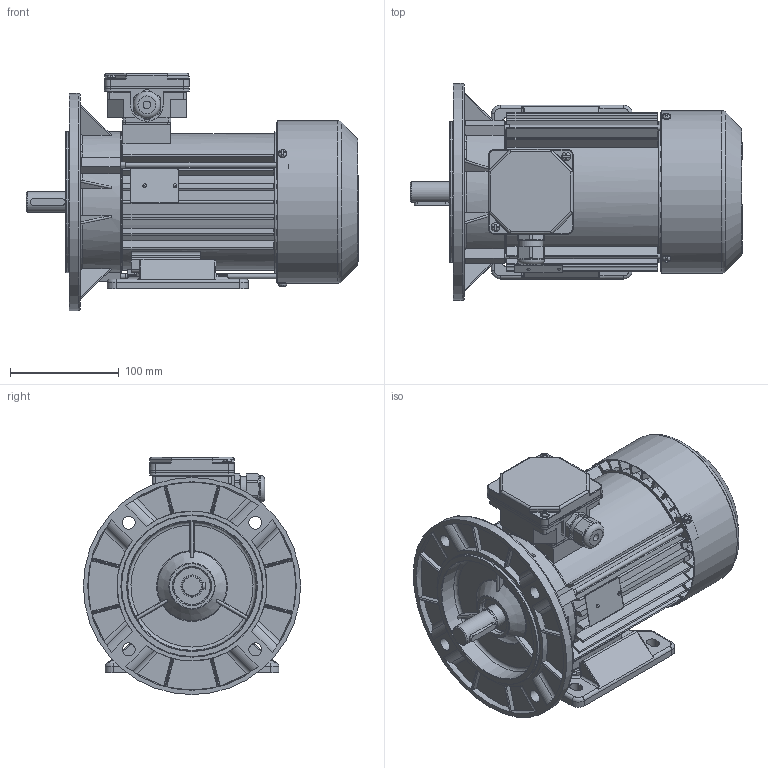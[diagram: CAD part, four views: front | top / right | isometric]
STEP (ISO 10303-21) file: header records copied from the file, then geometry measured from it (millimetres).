
FILE_DESCRIPTION( ( 'Unknown' ), '1' );
FILE_NAME( 'G:/Poczta Tk-1/STP/w.m.80/Sh80/SLh80x-.C.stp', 'Unknown', ( 'K. Szlosek' ), ( 'BESEL S.A.' ), 'PSStep 17.0.49', 'Unknown', ' ' );
FILE_SCHEMA( ( 'AUTOMOTIVE_DESIGN { 1 0 10303 214 1 1 1 1 }' ) );
Length unit declared in the file: millimetre
Products named in the file (30): skrznka zaciskowa trójfazowa ; K4-2820 Uszczelka nr 2 Sh71,80; Dławnica M20x1,5; K2-0859 Podstawa skrzynki 6-cio zaciskowej; K2-0860 Pokrywka skrzynki zaciskowej; Assem1; K1-1257 Kadłub S(E,M)h80-C i D; K2-2027 Tarcza łożyskowa P S(E,M)h80-.A,C; K1-1258  zmiana Tarcza kołnierzowa B5 SKh80-..; Wkręt samogwintujący M4x16; Wkręt samogwintujący M4x10; K3-7039 wał standard Sh80-C; K4-4489 Osłona przewietrznika Sh80,90-A,C; K4-2320 Uszczelka nr 1 Sh71,80; Wpust A6x6x32; K2-1715 Przewietrznik; Nitokołek A 2x6; Łożysko 6204; Śruba ściągająca E_M5x168; Tabliczka znamionowa 32x44; K1-0437 Łapa Sh80-.. 
Assembly tree (45 placements, depth 3):
  Assem1
    K1-1257 Kadłub S(E,M)h80-C i D
    K2-2027 Tarcza łożyskowa P S(E,M)h80-.A,C
    K1-1258  zmiana Tarcza kołnierzowa B5 SKh80-..
    Wkręt samogwintujący M4x16  x2
    Wkręt samogwintujący M4x10  x3
    K3-7039 wał standard Sh80-C
    K4-4489 Osłona przewietrznika Sh80,90-A,C
    K4-2320 Uszczelka nr 1 Sh71,80
    Wpust A6x6x32
    K2-1715 Przewietrznik
    Nitokołek A 2x6  x2
    Łożysko 6204  x2
    Łożysko 6204  x2
    Łożysko 6204  x2
    Łożysko 6204  x2
    Łożysko 6204  x2
    Łożysko 6204  x2
    Łożysko 6204  x2
    Łożysko 6204  x2
    Łożysko 6204  x2
    Łożysko 6204  x2
    Śruba ściągająca E_M5x168  x3
    Tabliczka znamionowa 32x44
    K1-0437 Łapa Sh80-.. 
    skrznka zaciskowa trójfazowa 
      K4-2820 Uszczelka nr 2 Sh71,80
      Dławnica M20x1,5
      K2-0859 Podstawa skrzynki 6-cio zaciskowej
      K2-0860 Pokrywka skrzynki zaciskowej
Bounding box: 305.8 x 200 x 218.5 mm (x, y, z)
Volume: 1191693.7 mm3; surface area: 652397.3 mm2
Topology: 44 solids, 60 shells, 2615 faces, 7191 edges, 4634 vertices
Faces by surface type: plane 1288, cylinder 907, bspline 149, torus 126, cone 111, sphere 34
Full cylindrical faces by diameter (mm): 2 x2, 2.4 x2, 3 x1, 3.7 x11, 4 x5, 4.134 x3, 4.5 x1, 4.6 x3, 4.8 x4, 5 x7, 5.5 x3, 6.5 x4, 7 x1, 8 x9, 12 x4, 18.376 x1, 18.38 x1, 18.6 x1, 19 x1, 19.3 x1, 19.5 x2, 19.9 x1, 20 x5, 20.3 x2, 20.4 x4, 22.3 x1, 25 x1, 25.5 x1, 25.65 x1, 26 x3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
Entity records: 121155 total; most frequent: CARTESIAN_POINT 41277, ORIENTED_EDGE 12816, DIRECTION 12521, EDGE_CURVE 6408, AXIS2_PLACEMENT_3D 4553, VERTEX_POINT 4301, LINE 3415, VECTOR 3415
